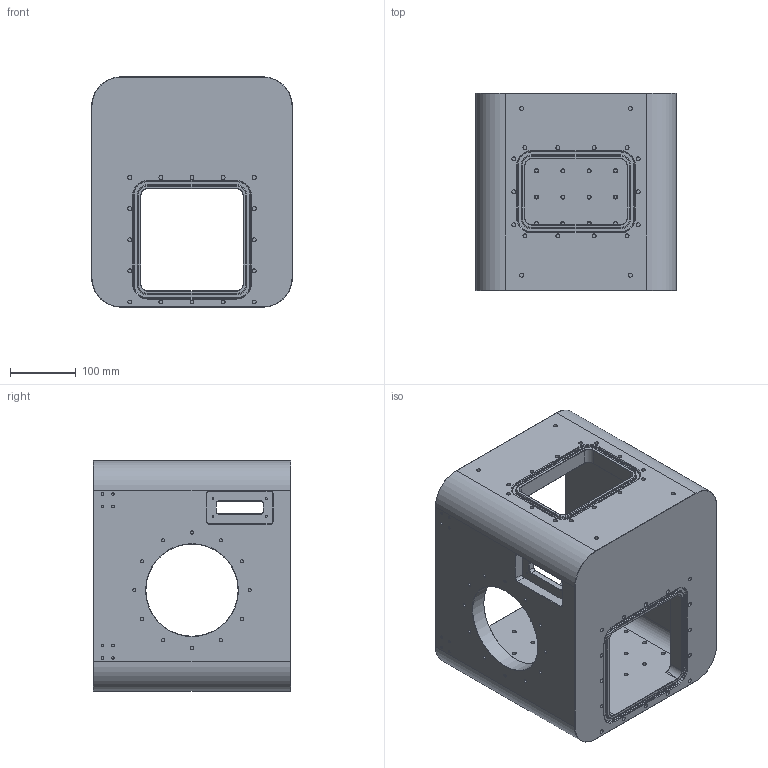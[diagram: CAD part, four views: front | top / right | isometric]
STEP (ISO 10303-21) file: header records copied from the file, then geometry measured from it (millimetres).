
FILE_DESCRIPTION(('FreeCAD Model'),'2;1');
FILE_NAME('Open CASCADE Shape Model','2025-06-29T15:52:55',(''),(''), 'Open CASCADE STEP processor 7.6','FreeCAD','Unknown');
FILE_SCHEMA(('CONFIG_CONTROL_DESIGN','SHAPE_APPEARANCE_LAYER_MIM'));
Length unit declared in the file: millimetre
Products named in the file (1): CryostatBody
Bounding box: 305 x 300 x 350 mm (x, y, z)
Volume: 8499631.2 mm3; surface area: 846259.6 mm2
Topology: 1 solids, 1 shells, 701 faces, 2103 edges, 1538 vertices
Faces by surface type: cylinder 261, plane 250, cone 108, torus 64, bspline 18
Full cylindrical faces by diameter (mm): 2.46 x8, 4 x12, 4.92 x24, 6 x70, 140 x2
Entity records: 42019 total; most frequent: CARTESIAN_POINT 24231, ORIENTED_EDGE 4206, DIRECTION 3397, EDGE_CURVE 2103, VERTEX_POINT 1538, AXIS2_PLACEMENT_3D 1376, FACE_BOUND 845, EDGE_LOOP 845
